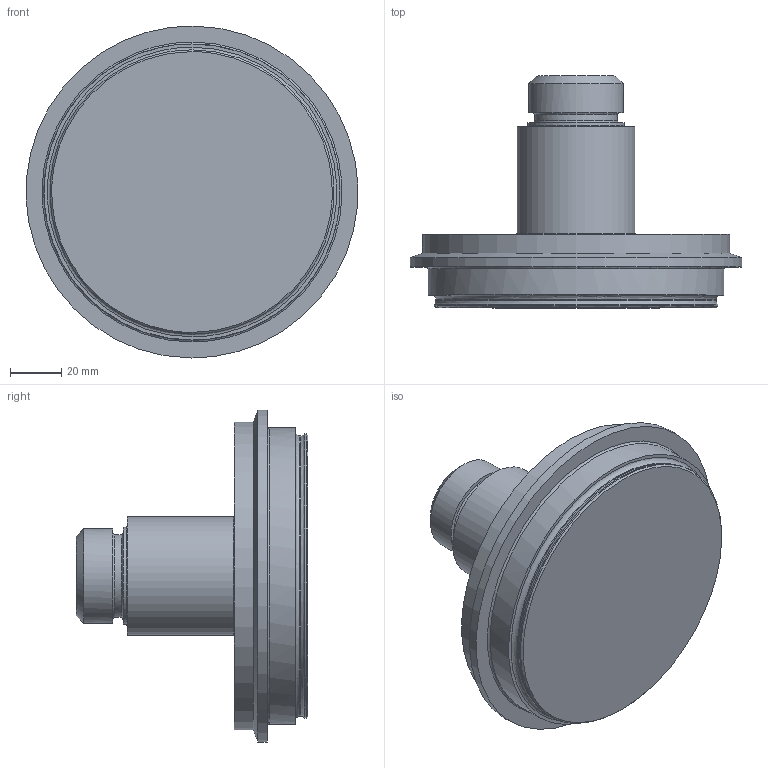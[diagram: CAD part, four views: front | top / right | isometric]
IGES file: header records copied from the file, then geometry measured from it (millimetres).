
Global section: file name: 122308 4; native system: Autodesk Inventor 2020; preprocessor: unknown; author: H7M44K; date: 20210423.112129; units: inch
Bounding box: 130.06 x 90.88 x 130.18 mm (x, y, z)
Volume: 410672.9 mm3; surface area: 45194.3 mm2
Topology: 1 solids, 1 shells, 27 faces, 71 edges, 52 vertices
Faces by surface type: bspline 27
